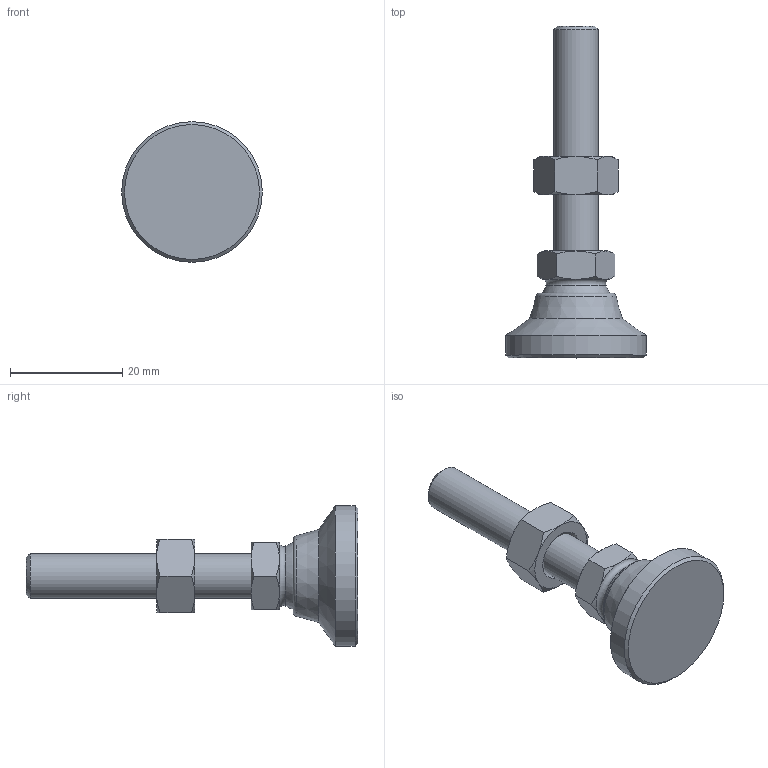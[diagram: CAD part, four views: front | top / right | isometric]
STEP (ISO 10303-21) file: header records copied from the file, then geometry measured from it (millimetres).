
FILE_DESCRIPTION( ( 'STEP AP214' ), ' ' );
FILE_NAME( 'O:/ganter_2015/teil_2/2_5/gn343_2/gn343_2_os/Levelling foot with threaded stud GN 343.2-25-M8-40-OS-(0).stp', '2015-10-26T09:06:24', ( '' ), ( '' ), ' ', 'PARTsolutions', ' ' );
FILE_SCHEMA( ( 'AUTOMOTIVE_DESIGN { 1 0 10303 214 1 1 1 1 }' ) );
Length unit declared in the file: millimetre
Products named in the file (4): Levelling foot with threaded stud GN 343.2-25-M8-40-OS-(0); _Levelling foot with threaded stud GN 343.2-25-M8-40-OS-(0)_foot; _Levelling foot with threaded stud GN 343.2-25-M8-40-OS-(0)_screw; _Stainless Steel-Levelling feet GN 343.2-25-M8-40-OS-(0)_nut
Assembly tree (3 placements, depth 2):
  Levelling foot with threaded stud GN 343.2-25-M8-40-OS-(0)
    _Levelling foot with threaded stud GN 343.2-25-M8-40-OS-(0)_foot
    _Levelling foot with threaded stud GN 343.2-25-M8-40-OS-(0)_screw
    _Stainless Steel-Levelling feet GN 343.2-25-M8-40-OS-(0)_nut
Bounding box: 25 x 59 x 25 mm (x, y, z)
Volume: 7405.1 mm3; surface area: 4094.7 mm2
Topology: 3 solids, 3 shells, 55 faces, 122 edges, 73 vertices
Faces by surface type: cone 30, plane 18, cylinder 3, torus 2, sphere 1, bspline 1
Full cylindrical faces by diameter (mm): 6.647 x1, 8 x1, 25 x1
Entity records: 2119 total; most frequent: CARTESIAN_POINT 550, ORIENTED_EDGE 210, DIRECTION 206, EDGE_CURVE 105, AXIS2_PLACEMENT_3D 97, VERTEX_POINT 71, EDGE_LOOP 70, FACE_OUTER_BOUND 60
